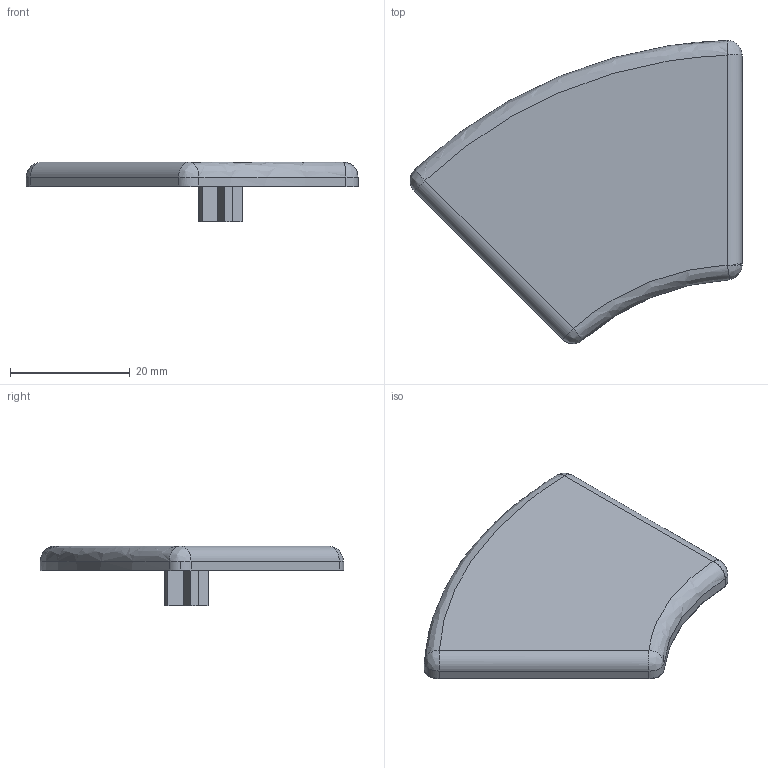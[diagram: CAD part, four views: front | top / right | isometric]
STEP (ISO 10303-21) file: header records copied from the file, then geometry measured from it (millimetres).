
FILE_DESCRIPTION (( 'STEP AP203' ), '1' );
FILE_NAME ('421044_Abdeckkappe 8 R40-80 - 45°.step', '2022-06-24T07:26:30', ( '' ), ( '' ), 'SwSTEP 2.0', 'SolidWorks 2021', '' );
FILE_SCHEMA (( 'CONFIG_CONTROL_DESIGN' ));
Length unit declared in the file: millimetre
Products named in the file (1): 421044_Abdeckkappe 8 R40-80 - 45°
Bounding box: 55.5 x 50.7 x 10 mm (x, y, z)
Surface area: 4461.5 mm2 (no closed solid volume)
Topology: 0 solids, 2 shells, 59 faces, 153 edges, 95 vertices
Faces by surface type: plane 27, cylinder 25, bspline 7
Entity records: 2176 total; most frequent: CARTESIAN_POINT 739, ORIENTED_EDGE 296, DIRECTION 263, EDGE_CURVE 149, VERTEX_POINT 95, AXIS2_PLACEMENT_3D 88, LINE 87, VECTOR 87
